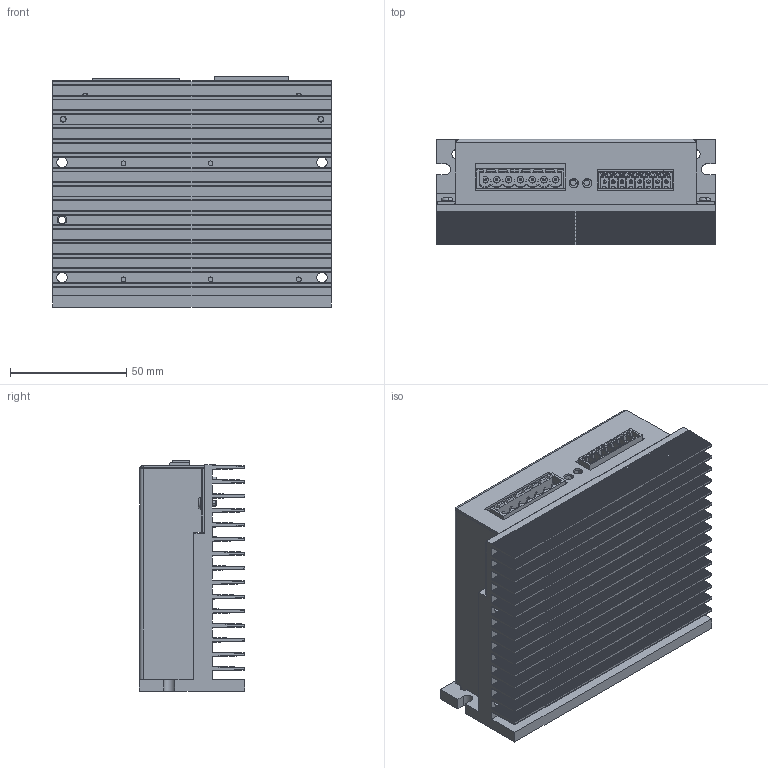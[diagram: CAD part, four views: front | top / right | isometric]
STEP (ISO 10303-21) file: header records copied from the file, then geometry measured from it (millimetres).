
FILE_DESCRIPTION((''),'2;1');
FILE_NAME('LW1D3050N081-01_ASM','2018-12-04T14:12:08',('Matteo Maccalli'),(''),'CREO PARAMETRIC BY PTC INC, 2017260','CREO PARAMETRIC BY PTC INC, 2017260','');
FILE_SCHEMA(('AUTOMOTIVE_DESIGN { 1 0 10303 214 1 1 1 1 }'));
Products named in the file (18): ESTRUSO-02_DLD01; DLD01-00_SHEET; BOARD; MSTBA_2_5-7-G-5_08; 1757297_ASM; CN1_ASM; USER_LIBRARY-LED_OSRAM_SIDELED; LED200_ASM; LED201_ASM; 1803332; CN2_ASM; SMD_8-DIPSWITCH_RIGTH_ANGLE; DIP1_ASM; PCB_ASM; DLD01-03_ASM; MC_SCA-DLD01-01; TCC_M2E5X06; LW1D3050N081-01_ASM
Assembly tree (19 placements, depth 6):
  LW1D3050N081-01_ASM
    ESTRUSO-02_DLD01
    DLD01-00_SHEET
    DLD01-03_ASM
      PCB_ASM
        BOARD
        CN1_ASM
          1757297_ASM
            MSTBA_2_5-7-G-5_08
        LED200_ASM
          USER_LIBRARY-LED_OSRAM_SIDELED
        LED201_ASM
          USER_LIBRARY-LED_OSRAM_SIDELED
        CN2_ASM
          1803332
        DIP1_ASM
          SMD_8-DIPSWITCH_RIGTH_ANGLE
    MC_SCA-DLD01-01
    TCC_M2E5X06  x2
Bounding box: 120 x 45.5 x 99.27 mm (x, y, z)
Volume: 170935.9 mm3; surface area: 171799.8 mm2
Topology: 10 solids, 21 shells, 6152 faces, 17357 edges, 11350 vertices
Faces by surface type: plane 4111, cylinder 1943, sphere 44, cone 40, torus 8, bspline 6
Entity records: 260548 total; most frequent: CARTESIAN_POINT 37675, ORIENTED_EDGE 34036, DIRECTION 32703, PRESENTATION_STYLE_ASSIGNMENT 18408, EDGE_CURVE 17054, STYLED_ITEM 16986, CURVE_STYLE 16968, VECTOR 12619
